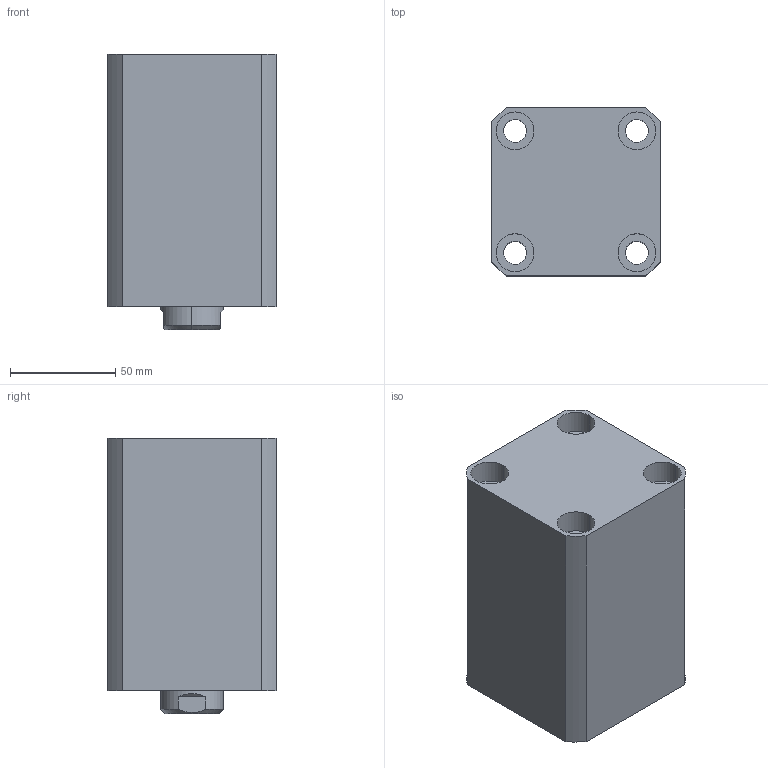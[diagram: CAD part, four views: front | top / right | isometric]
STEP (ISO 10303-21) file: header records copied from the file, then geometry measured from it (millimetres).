
FILE_DESCRIPTION (( 'STEP AP203' ), '1' );
FILE_NAME ('CHTB-SDMA50-60N.STEP', '2018-05-19T02:23:21', ( '' ), ( '' ), 'SwSTEP 2.0', 'SolidWorks 2015', '' );
FILE_SCHEMA (( 'CONFIG_CONTROL_DESIGN' ));
Length unit declared in the file: millimetre
Products named in the file (5): 活塞杆SDMA50-60N; CHTM-SDMA50QG; 掛极SDMA50-60N; M6; CHTB-SDMA50-60N
Assembly tree (5 placements, depth 2):
  CHTB-SDMA50-60N
    掛极SDMA50-60N
    活塞杆SDMA50-60N
    CHTM-SDMA50QG
    M6  x2
Bounding box: 80 x 80 x 131 mm (x, y, z)
Volume: 615841.4 mm3; surface area: 121125.9 mm2
Topology: 5 solids, 5 shells, 270 faces, 703 edges, 464 vertices
Faces by surface type: cylinder 139, plane 58, cone 31, bspline 26, torus 16
Entity records: 14133 total; most frequent: CARTESIAN_POINT 8131, ORIENTED_EDGE 1208, DIRECTION 1054, EDGE_CURVE 604, AXIS2_PLACEMENT_3D 433, VERTEX_POINT 403, EDGE_LOOP 277, ADVANCED_FACE 235
